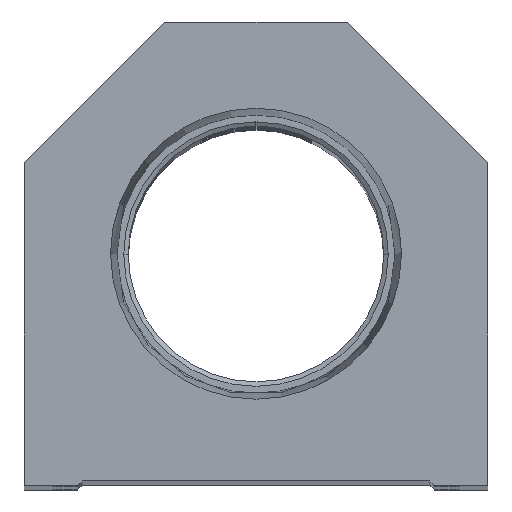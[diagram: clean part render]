
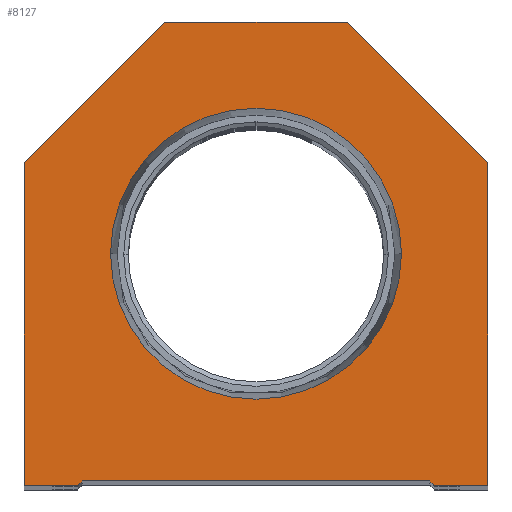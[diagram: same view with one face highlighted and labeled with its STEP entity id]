
A CAD part, top view. The second image highlights one B-rep face of the part: STEP entity #8127.
In plain terms, the highlighted planar face has unit normal (0, 0, 1).
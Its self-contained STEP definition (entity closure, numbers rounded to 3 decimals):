
#42 = CARTESIAN_POINT ( 'NONE',  ( 9.775, 9.775, 0. ) ) ;
#62 = EDGE_CURVE ( 'NONE', #1396, #7376, #17737, .T. ) ;
#244 = VERTEX_POINT ( 'NONE', #745 ) ;
#474 = ORIENTED_EDGE ( 'NONE', *, *, #6762, .T. ) ;
#495 = ORIENTED_EDGE ( 'NONE', *, *, #3353, .T. ) ;
#516 = CARTESIAN_POINT ( 'NONE',  ( -19.55, 0., 0. ) ) ;
#745 = CARTESIAN_POINT ( 'NONE',  ( 25.4, 0., 0. ) ) ;
#834 = EDGE_CURVE ( 'NONE', #244, #4351, #14278, .T. ) ;
#1206 = EDGE_LOOP ( 'NONE', ( #17978, #1236 ) ) ;
#1236 = ORIENTED_EDGE ( 'NONE', *, *, #12834, .F. ) ;
#1396 = VERTEX_POINT ( 'NONE', #3997 ) ;
#1469 = LINE ( 'NONE', #42, #18020 ) ;
#1501 = VECTOR ( 'NONE', #1905, 1000. ) ;
#1747 = DIRECTION ( 'NONE',  ( 0., 1., 0. ) ) ;
#1778 = CARTESIAN_POINT ( 'NONE',  ( -9.775, 9.775, 0. ) ) ;
#1820 = VERTEX_POINT ( 'NONE', #3337 ) ;
#1905 = DIRECTION ( 'NONE',  ( 1., 0., 0. ) ) ;
#1944 = CARTESIAN_POINT ( 'NONE',  ( 10., 50.8, 0. ) ) ;
#2028 = CARTESIAN_POINT ( 'NONE',  ( -25.4, 35.4, 0. ) ) ;
#2035 = VECTOR ( 'NONE', #11617, 1000. ) ;
#2819 = ORIENTED_EDGE ( 'NONE', *, *, #6505, .T. ) ;
#3023 = DIRECTION ( 'NONE',  ( 0., 0., 1. ) ) ;
#3093 = VECTOR ( 'NONE', #3230, 1000. ) ;
#3160 = LINE ( 'NONE', #1778, #16343 ) ;
#3230 = DIRECTION ( 'NONE',  ( 1., 0., 0. ) ) ;
#3317 = ORIENTED_EDGE ( 'NONE', *, *, #4903, .T. ) ;
#3337 = CARTESIAN_POINT ( 'NONE',  ( -19.05, 0.5, 0. ) ) ;
#3353 = EDGE_CURVE ( 'NONE', #7376, #7386, #4711, .T. ) ;
#3668 = CARTESIAN_POINT ( 'NONE',  ( -25.4, 0., 0. ) ) ;
#3762 = EDGE_LOOP ( 'NONE', ( #3317, #10944, #10543, #18200, #474, #7180, #2819, #5849, #495, #15405 ) ) ;
#3997 = CARTESIAN_POINT ( 'NONE',  ( 10., 50.8, 0. ) ) ;
#4108 = EDGE_CURVE ( 'NONE', #12590, #5743, #1469, .T. ) ;
#4145 = VECTOR ( 'NONE', #9024, 1000. ) ;
#4351 = VERTEX_POINT ( 'NONE', #10754 ) ;
#4361 = CARTESIAN_POINT ( 'NONE',  ( 25.4, 35.4, 0. ) ) ;
#4596 = DIRECTION ( 'NONE',  ( 1., 0., 0. ) ) ;
#4683 = CARTESIAN_POINT ( 'NONE',  ( 0., 0., 0. ) ) ;
#4711 = LINE ( 'NONE', #2028, #2035 ) ;
#4903 = EDGE_CURVE ( 'NONE', #17291, #14092, #8896, .T. ) ;
#5188 = CARTESIAN_POINT ( 'NONE',  ( 19.05, 0., 0. ) ) ;
#5743 = VERTEX_POINT ( 'NONE', #16567 ) ;
#5849 = ORIENTED_EDGE ( 'NONE', *, *, #62, .T. ) ;
#6505 = EDGE_CURVE ( 'NONE', #4351, #1396, #9700, .T. ) ;
#6521 = CARTESIAN_POINT ( 'NONE',  ( 15.947, 25.4, 0. ) ) ;
#6760 = CARTESIAN_POINT ( 'NONE',  ( 0., 25.4, 0. ) ) ;
#6762 = EDGE_CURVE ( 'NONE', #5743, #244, #9308, .T. ) ;
#7180 = ORIENTED_EDGE ( 'NONE', *, *, #834, .T. ) ;
#7376 = VERTEX_POINT ( 'NONE', #17422 ) ;
#7386 = VERTEX_POINT ( 'NONE', #13301 ) ;
#8127 = ADVANCED_FACE ( 'NONE', ( #12961, #8734 ), #11498, .T. ) ;
#8234 = DIRECTION ( 'NONE',  ( -0.707, 0.707, 0. ) ) ;
#8289 = DIRECTION ( 'NONE',  ( 0.707, -0.707, 0. ) ) ;
#8293 = VECTOR ( 'NONE', #8234, 1000. ) ;
#8342 = DIRECTION ( 'NONE',  ( 1., 0., 0. ) ) ;
#8459 = EDGE_CURVE ( 'NONE', #11952, #15277, #14747, .T. ) ;
#8734 = FACE_OUTER_BOUND ( 'NONE', #3762, .T. ) ;
#8758 = CARTESIAN_POINT ( 'NONE',  ( -25.4, 0., 0. ) ) ;
#8896 = LINE ( 'NONE', #14529, #1501 ) ;
#9024 = DIRECTION ( 'NONE',  ( -1., 0., 0. ) ) ;
#9308 = LINE ( 'NONE', #5188, #10642 ) ;
#9345 = EDGE_CURVE ( 'NONE', #7386, #17291, #12424, .T. ) ;
#9700 = LINE ( 'NONE', #4361, #8293 ) ;
#10237 = CARTESIAN_POINT ( 'NONE',  ( -19.05, 0.5, 0. ) ) ;
#10543 = ORIENTED_EDGE ( 'NONE', *, *, #10692, .T. ) ;
#10609 = AXIS2_PLACEMENT_3D ( 'NONE', #18172, #12216, #11116 ) ;
#10642 = VECTOR ( 'NONE', #14955, 1000. ) ;
#10692 = EDGE_CURVE ( 'NONE', #1820, #12590, #16077, .T. ) ;
#10754 = CARTESIAN_POINT ( 'NONE',  ( 25.4, 35.4, 0. ) ) ;
#10930 = VECTOR ( 'NONE', #12058, 1000. ) ;
#10944 = ORIENTED_EDGE ( 'NONE', *, *, #17655, .T. ) ;
#11116 = DIRECTION ( 'NONE',  ( 1., 0., 0. ) ) ;
#11498 = PLANE ( 'NONE',  #16224 ) ;
#11518 = CARTESIAN_POINT ( 'NONE',  ( 25.4, 0., 0. ) ) ;
#11617 = DIRECTION ( 'NONE',  ( -0.707, -0.707, 0. ) ) ;
#11952 = VERTEX_POINT ( 'NONE', #6521 ) ;
#12058 = DIRECTION ( 'NONE',  ( 0., -1., 0. ) ) ;
#12216 = DIRECTION ( 'NONE',  ( 0., 0., 1. ) ) ;
#12385 = DIRECTION ( 'NONE',  ( 0., 0., 1. ) ) ;
#12424 = LINE ( 'NONE', #3668, #10930 ) ;
#12590 = VERTEX_POINT ( 'NONE', #17673 ) ;
#12747 = DIRECTION ( 'NONE',  ( 0.707, 0.707, 0. ) ) ;
#12834 = EDGE_CURVE ( 'NONE', #15277, #11952, #14257, .T. ) ;
#12961 = FACE_BOUND ( 'NONE', #1206, .T. ) ;
#13301 = CARTESIAN_POINT ( 'NONE',  ( -25.4, 35.4, 0. ) ) ;
#14092 = VERTEX_POINT ( 'NONE', #516 ) ;
#14257 = CIRCLE ( 'NONE', #16952, 15.947 ) ;
#14278 = LINE ( 'NONE', #11518, #15106 ) ;
#14529 = CARTESIAN_POINT ( 'NONE',  ( -19.05, 0., 0. ) ) ;
#14729 = CARTESIAN_POINT ( 'NONE',  ( -15.947, 25.4, 0. ) ) ;
#14747 = CIRCLE ( 'NONE', #10609, 15.947 ) ;
#14955 = DIRECTION ( 'NONE',  ( 1., 0., 0. ) ) ;
#15106 = VECTOR ( 'NONE', #1747, 1000. ) ;
#15277 = VERTEX_POINT ( 'NONE', #14729 ) ;
#15405 = ORIENTED_EDGE ( 'NONE', *, *, #9345, .T. ) ;
#16077 = LINE ( 'NONE', #10237, #3093 ) ;
#16224 = AXIS2_PLACEMENT_3D ( 'NONE', #4683, #3023, #4596 ) ;
#16343 = VECTOR ( 'NONE', #12747, 1000. ) ;
#16567 = CARTESIAN_POINT ( 'NONE',  ( 19.55, 0., 0. ) ) ;
#16952 = AXIS2_PLACEMENT_3D ( 'NONE', #6760, #12385, #8342 ) ;
#17291 = VERTEX_POINT ( 'NONE', #8758 ) ;
#17422 = CARTESIAN_POINT ( 'NONE',  ( -10., 50.8, 0. ) ) ;
#17655 = EDGE_CURVE ( 'NONE', #14092, #1820, #3160, .T. ) ;
#17673 = CARTESIAN_POINT ( 'NONE',  ( 19.05, 0.5, 0. ) ) ;
#17737 = LINE ( 'NONE', #1944, #4145 ) ;
#17978 = ORIENTED_EDGE ( 'NONE', *, *, #8459, .F. ) ;
#18020 = VECTOR ( 'NONE', #8289, 1000. ) ;
#18172 = CARTESIAN_POINT ( 'NONE',  ( 0., 25.4, 0. ) ) ;
#18200 = ORIENTED_EDGE ( 'NONE', *, *, #4108, .T. ) ;
